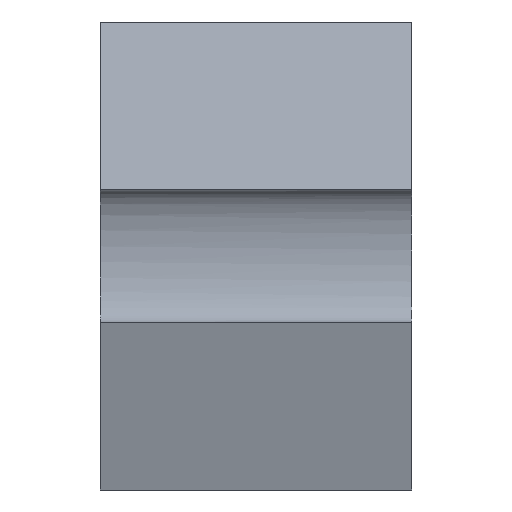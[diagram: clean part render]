
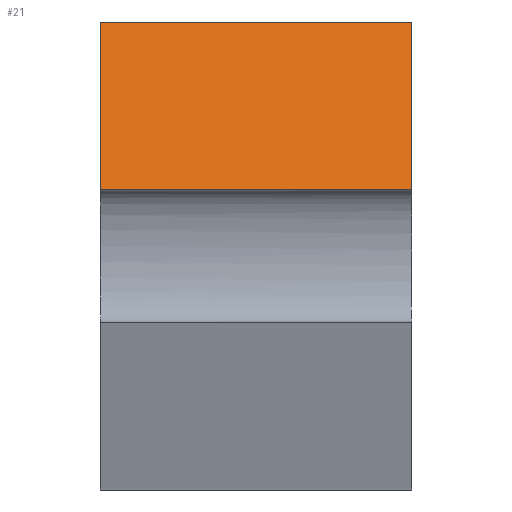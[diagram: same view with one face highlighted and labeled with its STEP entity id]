
A CAD part, front view. The second image highlights one B-rep face of the part: STEP entity #21.
In plain terms, the highlighted planar face has unit normal (0, -0.957, 0.289).
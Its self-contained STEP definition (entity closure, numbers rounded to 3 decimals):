
#21=ADVANCED_FACE('',(#29),#129,.T.);
#29=FACE_OUTER_BOUND('',#37,.T.);
#37=EDGE_LOOP('',(#67,#68,#69,#70));
#67=ORIENTED_EDGE('',*,*,#88,.F.);
#68=ORIENTED_EDGE('',*,*,#89,.F.);
#69=ORIENTED_EDGE('',*,*,#86,.T.);
#70=ORIENTED_EDGE('',*,*,#87,.F.);
#86=EDGE_CURVE('',#118,#115,#104,.T.);
#87=EDGE_CURVE('',#119,#115,#105,.T.);
#88=EDGE_CURVE('',#120,#119,#106,.T.);
#89=EDGE_CURVE('',#118,#120,#107,.T.);
#104=B_SPLINE_CURVE_WITH_KNOTS('',1,(#238,#239),.UNSPECIFIED.,.F.,.F.,(2,
2),(0.,800.),.UNSPECIFIED.);
#105=B_SPLINE_CURVE_WITH_KNOTS('',1,(#240,#241),.UNSPECIFIED.,.F.,.F.,(2,
2),(0.,376.04),.UNSPECIFIED.);
#106=B_SPLINE_CURVE_WITH_KNOTS('',1,(#242,#243),.UNSPECIFIED.,.F.,.F.,(2,
2),(476.229,1276.229),.UNSPECIFIED.);
#107=B_SPLINE_CURVE_WITH_KNOTS('',1,(#244,#245),.UNSPECIFIED.,.F.,.F.,(2,
2),(-376.04,0.),.UNSPECIFIED.);
#115=VERTEX_POINT('',#202);
#118=VERTEX_POINT('',#205);
#119=VERTEX_POINT('',#206);
#120=VERTEX_POINT('',#207);
#129=PLANE('',#154);
#154=AXIS2_PLACEMENT_3D('',#196,#162,$);
#162=DIRECTION('',(0.,-0.957,0.289));
#196=CARTESIAN_POINT('',(5226.722,-20.,788.798));
#202=CARTESIAN_POINT('',(6201.925,-150.,358.798));
#205=CARTESIAN_POINT('',(5401.925,-150.,358.798));
#206=CARTESIAN_POINT('',(6201.925,-20.,788.798));
#207=CARTESIAN_POINT('',(5401.925,-20.,788.798));
#238=CARTESIAN_POINT('',(5401.925,-150.,358.798));
#239=CARTESIAN_POINT('',(6201.925,-150.,358.798));
#240=CARTESIAN_POINT('',(6201.925,-20.,788.798));
#241=CARTESIAN_POINT('',(6201.925,-150.,358.798));
#242=CARTESIAN_POINT('',(5401.925,-20.,788.798));
#243=CARTESIAN_POINT('',(6201.925,-20.,788.798));
#244=CARTESIAN_POINT('',(5401.925,-150.,358.798));
#245=CARTESIAN_POINT('',(5401.925,-20.,788.798));
